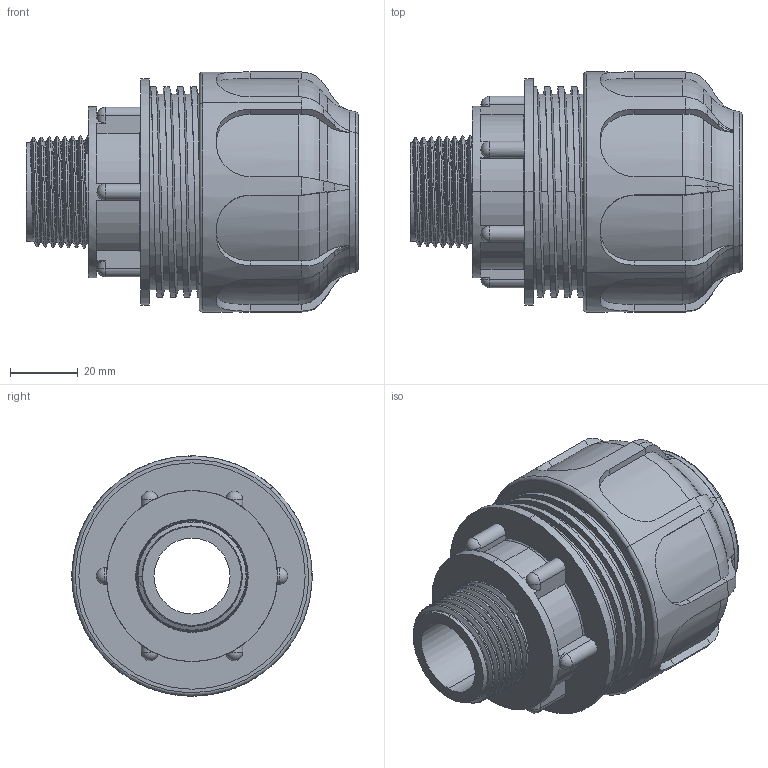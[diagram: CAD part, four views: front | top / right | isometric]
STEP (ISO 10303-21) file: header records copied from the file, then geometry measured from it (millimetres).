
FILE_DESCRIPTION (( 'STEP AP203' ), '1' );
FILE_NAME ('02004.0730.STEP', '2017-05-22T14:05:32', ( '' ), ( '' ), 'SwSTEP 2.0', 'SolidWorks 2011', '' );
FILE_SCHEMA (( 'CONFIG_CONTROL_DESIGN' ));
Length unit declared in the file: millimetre
Products named in the file (3): 02004.0730; 01711_3232; 01770_0730
Assembly tree (2 placements, depth 2):
  02004.0730
    01711_3232
    01770_0730
Bounding box: 98.28 x 71.08 x 71.09 mm (x, y, z)
Volume: 92935.1 mm3; surface area: 75047.1 mm2
Topology: 2 solids, 2 shells, 444 faces, 1440 edges, 999 vertices
Faces by surface type: cylinder 149, plane 132, torus 102, cone 44, bspline 11, sphere 6
Entity records: 31535 total; most frequent: CARTESIAN_POINT 19656, ORIENTED_EDGE 2860, DIRECTION 1978, EDGE_CURVE 1430, VERTEX_POINT 997, AXIS2_PLACEMENT_3D 800, B_SPLINE_CURVE_WITH_KNOTS 610, EDGE_LOOP 455
